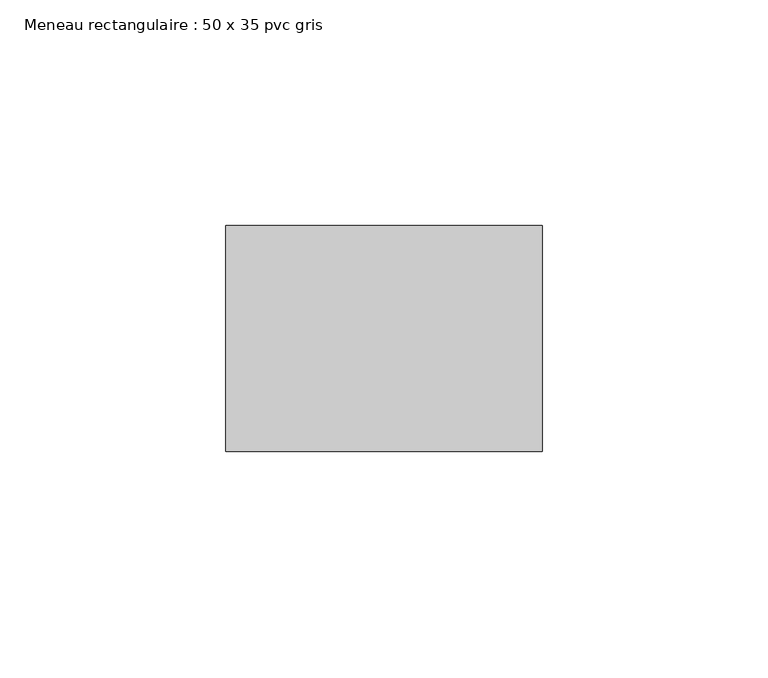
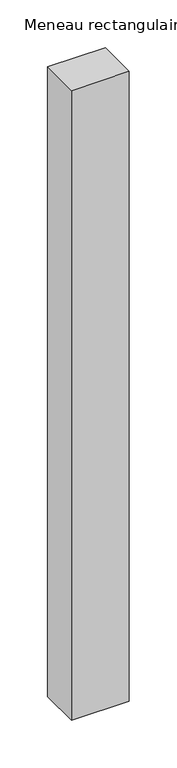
"""IFC4 building model written with IfcOpenShell, lengths in millimetres: member geometry, Meneau rectangulaire : 50 x 35 pvc gris."""

from ifc_helpers import new_model, si_unit, frame, origin, place, context, project, spatial, polyline, outline, extrude, source, transform, mapped, element, save


def meneau_rectangulaire_50_x_35_pvc_gris_6cfeaa11(model_context):
    return source(origin(), model_context, "Body", "SweptSolid", [
        extrude(outline(polyline([(35.0, 0.0), (35.0, -50.0), (-35.0, -50.0), (-35.0, 0.0), (35.0, 0.0)])), frame((0.0, 0.0, -805.0), z_axis=(0.0, 0.0, 1.0), x_axis=(1.0, 0.0, 0.0)), (0.0, 0.0, 1.0), 805.0),
    ])


if __name__ == "__main__":
    model = new_model("IFC4")
    model_context = context("Model", 3, world=origin())
    ifc_project = project(units=[si_unit("LENGTHUNIT", "METRE", prefix="MILLI")], contexts=[model_context])
    site = spatial("IfcSite", under=ifc_project)
    building = spatial("IfcBuilding", under=site)
    placement = place(None, origin())
    meneau_rectangulaire_50_x_35_pvc_gris_shape = meneau_rectangulaire_50_x_35_pvc_gris_6cfeaa11(model_context)
    element("IfcMember", 1, ObjectType="Meneau rectangulaire : 50 x 35 pvc gris", at=placement, inside=building, context=model_context, shape_type="MappedRepresentation", body=[
        mapped(meneau_rectangulaire_50_x_35_pvc_gris_shape, transform((0.0, 0.0, 0.0), x_axis=(1.0, 0.0, 0.0), y_axis=(0.0, 1.0, 0.0), z_axis=(0.0, 0.0, 1.0))),
    ])
    save(model, "model.ifc")
